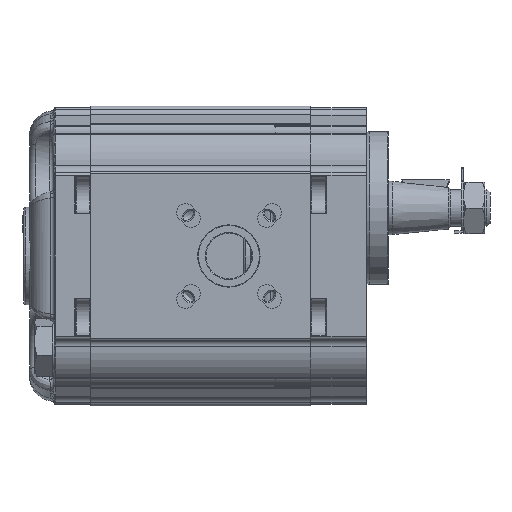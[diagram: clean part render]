
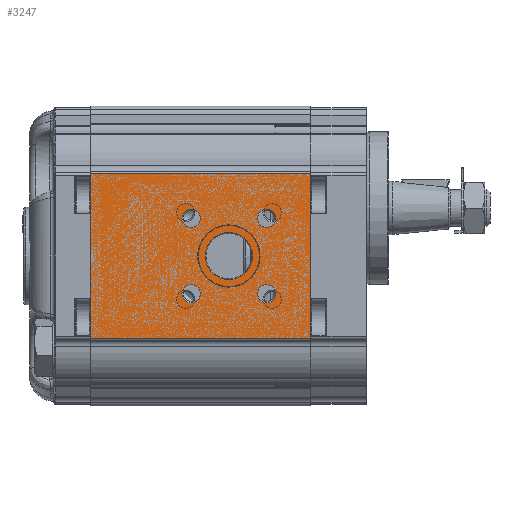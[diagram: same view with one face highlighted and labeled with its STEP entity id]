
A CAD part, left-side view. The second image highlights one B-rep face of the part: STEP entity #3247.
In plain terms, the highlighted planar face has unit normal (-1, 0, 0) as drawn and (1, 0, 0) by its records, which use the part's own axes.
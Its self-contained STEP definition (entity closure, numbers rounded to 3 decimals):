
#3247 = ADVANCED_FACE( '', ( #7620, #7621, #7622, #7623, #7624, #7625 ), #7626, .T. );
#7620 = FACE_BOUND( '', #14428, .T. );
#7621 = FACE_BOUND( '', #14429, .T. );
#7622 = FACE_BOUND( '', #14430, .T. );
#7623 = FACE_BOUND( '', #14431, .T. );
#7624 = FACE_BOUND( '', #14432, .T. );
#7625 = FACE_OUTER_BOUND( '', #14433, .T. );
#7626 = PLANE( '', #14434 );
#14428 = EDGE_LOOP( '', ( #25461 ) );
#14429 = EDGE_LOOP( '', ( #25462 ) );
#14430 = EDGE_LOOP( '', ( #25463 ) );
#14431 = EDGE_LOOP( '', ( #25464 ) );
#14432 = EDGE_LOOP( '', ( #25465 ) );
#14433 = EDGE_LOOP( '', ( #25466, #25467, #25468, #25469 ) );
#14434 = AXIS2_PLACEMENT_3D( '', #25470, #25471, #25472 );
#25461 = ORIENTED_EDGE( '', *, *, #39087, .T. );
#25462 = ORIENTED_EDGE( '', *, *, #39088, .T. );
#25463 = ORIENTED_EDGE( '', *, *, #39089, .T. );
#25464 = ORIENTED_EDGE( '', *, *, #37601, .T. );
#25465 = ORIENTED_EDGE( '', *, *, #39090, .T. );
#25466 = ORIENTED_EDGE( '', *, *, #38633, .F. );
#25467 = ORIENTED_EDGE( '', *, *, #39091, .F. );
#25468 = ORIENTED_EDGE( '', *, *, #36466, .T. );
#25469 = ORIENTED_EDGE( '', *, *, #39092, .T. );
#25470 = CARTESIAN_POINT( '', ( 43., 72., 27.048 ) );
#25471 = DIRECTION( '', ( 1., 0., 0. ) );
#25472 = DIRECTION( '', ( 0., 0., -1. ) );
#36466 = EDGE_CURVE( '', #43449, #43447, #43450, .T. );
#37601 = EDGE_CURVE( '', #45353, #45353, #45354, .F. );
#38633 = EDGE_CURVE( '', #46971, #46973, #46974, .T. );
#39087 = EDGE_CURVE( '', #47628, #47628, #47629, .F. );
#39088 = EDGE_CURVE( '', #47630, #47630, #47631, .F. );
#39089 = EDGE_CURVE( '', #47632, #47632, #47633, .F. );
#39090 = EDGE_CURVE( '', #47634, #47634, #47635, .F. );
#39091 = EDGE_CURVE( '', #43449, #46971, #47636, .T. );
#39092 = EDGE_CURVE( '', #43447, #46973, #47637, .T. );
#43447 = VERTEX_POINT( '', #53551 );
#43449 = VERTEX_POINT( '', #53553 );
#43450 = LINE( '', #53554, #53555 );
#45353 = VERTEX_POINT( '', #57189 );
#45354 = CIRCLE( '', #57190, 3. );
#46971 = VERTEX_POINT( '', #60616 );
#46973 = VERTEX_POINT( '', #60618 );
#46974 = LINE( '', #60619, #60620 );
#47628 = VERTEX_POINT( '', #61950 );
#47629 = CIRCLE( '', #61951, 7.7 );
#47630 = VERTEX_POINT( '', #61952 );
#47631 = CIRCLE( '', #61953, 3. );
#47632 = VERTEX_POINT( '', #61954 );
#47633 = CIRCLE( '', #61955, 3. );
#47634 = VERTEX_POINT( '', #61956 );
#47635 = CIRCLE( '', #61957, 3. );
#47636 = LINE( '', #61958, #61959 );
#47637 = LINE( '', #61960, #61961 );
#53551 = CARTESIAN_POINT( '', ( 43., 72., 27.048 ) );
#53553 = CARTESIAN_POINT( '', ( 43., 72., -27.048 ) );
#53554 = CARTESIAN_POINT( '', ( 43., 72., 27.048 ) );
#53555 = VECTOR( '', #69692, 1000. );
#57189 = CARTESIAN_POINT( '', ( 43., 14.426, 9.374 ) );
#57190 = AXIS2_PLACEMENT_3D( '', #70937, #70938, #70939 );
#60616 = CARTESIAN_POINT( '', ( 43., 0., -27.048 ) );
#60618 = CARTESIAN_POINT( '', ( 43., 0., 27.048 ) );
#60619 = CARTESIAN_POINT( '', ( 43., 0., 27.048 ) );
#60620 = VECTOR( '', #72063, 1000. );
#61950 = CARTESIAN_POINT( '', ( 43., 26.8, -7.7 ) );
#61951 = AXIS2_PLACEMENT_3D( '', #72544, #72545, #72546 );
#61952 = CARTESIAN_POINT( '', ( 43., 39.174, -15.374 ) );
#61953 = AXIS2_PLACEMENT_3D( '', #72547, #72548, #72549 );
#61954 = CARTESIAN_POINT( '', ( 43., 39.174, 9.374 ) );
#61955 = AXIS2_PLACEMENT_3D( '', #72550, #72551, #72552 );
#61956 = CARTESIAN_POINT( '', ( 43., 14.426, -15.374 ) );
#61957 = AXIS2_PLACEMENT_3D( '', #72553, #72554, #72555 );
#61958 = CARTESIAN_POINT( '', ( 43., 72., -27.048 ) );
#61959 = VECTOR( '', #72556, 1000. );
#61960 = CARTESIAN_POINT( '', ( 43., 72., 27.048 ) );
#61961 = VECTOR( '', #72557, 1000. );
#69692 = DIRECTION( '', ( 0., 0., 1. ) );
#70937 = CARTESIAN_POINT( '', ( 43., 14.426, 12.374 ) );
#70938 = DIRECTION( '', ( 1., 0., 0. ) );
#70939 = DIRECTION( '', ( 0., 0., -1. ) );
#72063 = DIRECTION( '', ( 0., 0., 1. ) );
#72544 = CARTESIAN_POINT( '', ( 43., 26.8, 0. ) );
#72545 = DIRECTION( '', ( 1., 0., 0. ) );
#72546 = DIRECTION( '', ( 0., 0., -1. ) );
#72547 = CARTESIAN_POINT( '', ( 43., 39.174, -12.374 ) );
#72548 = DIRECTION( '', ( 1., 0., 0. ) );
#72549 = DIRECTION( '', ( 0., 0., -1. ) );
#72550 = CARTESIAN_POINT( '', ( 43., 39.174, 12.374 ) );
#72551 = DIRECTION( '', ( 1., 0., 0. ) );
#72552 = DIRECTION( '', ( 0., 0., -1. ) );
#72553 = CARTESIAN_POINT( '', ( 43., 14.426, -12.374 ) );
#72554 = DIRECTION( '', ( 1., 0., 0. ) );
#72555 = DIRECTION( '', ( 0., 0., -1. ) );
#72556 = DIRECTION( '', ( 0., -1., 0. ) );
#72557 = DIRECTION( '', ( 0., -1., 0. ) );
